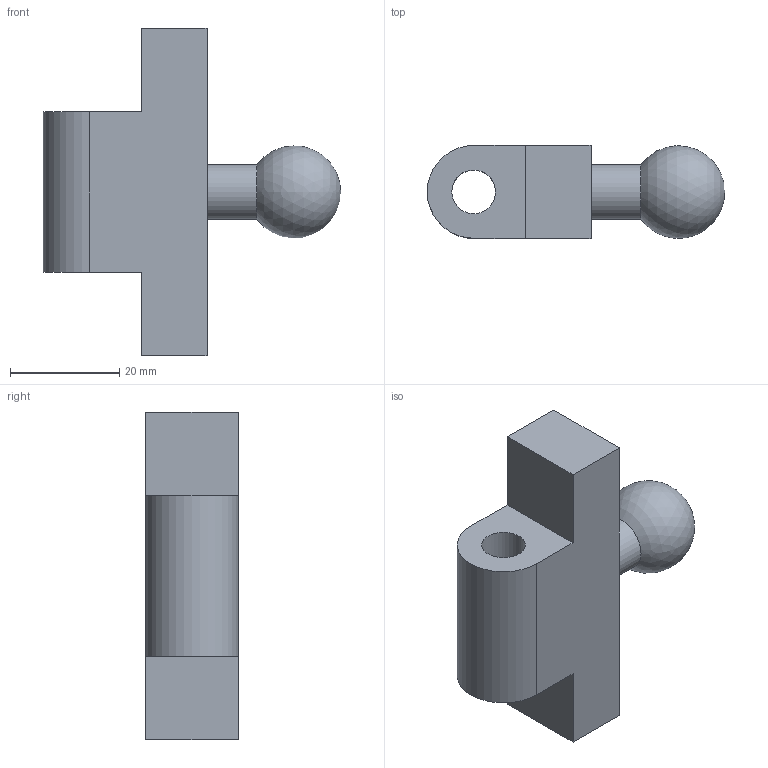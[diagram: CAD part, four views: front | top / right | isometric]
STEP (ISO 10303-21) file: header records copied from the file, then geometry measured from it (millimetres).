
FILE_DESCRIPTION(/* description */ (''),/* implementation_level */ '2;1');
FILE_NAME(/* name */ 'E:/3D Design/3D Prints/Tablet Wall Mount/STEP Files/Tab Holder B.stp',/* time_stamp */ '2017-09-21T21:58:58-05:00',/* author */ (''),/* organization */ (''),/* preprocessor_version */ 'ST-DEVELOPER v16.13',/* originating_system */ 'Autodesk Translation Framework v6.1.1.50',/* authorisation */ '');
FILE_SCHEMA (('AUTOMOTIVE_DESIGN { 1 0 10303 214 3 1 1 }'));
Length unit declared in the file: millimetre
Products named in the file (1): Tab Holder B
Bounding box: 54.5 x 17 x 60 mm (x, y, z)
Volume: 22070 mm3; surface area: 6949.5 mm2
Topology: 1 solids, 1 shells, 13 faces, 33 edges, 22 vertices
Faces by surface type: plane 9, cylinder 3, sphere 1
Full cylindrical faces by diameter (mm): 8 x1, 10 x1
Entity records: 386 total; most frequent: DIRECTION 62, CARTESIAN_POINT 62, ORIENTED_EDGE 56, EDGE_CURVE 28, LINE 22, VECTOR 22, VERTEX_POINT 20, AXIS2_PLACEMENT_3D 20
